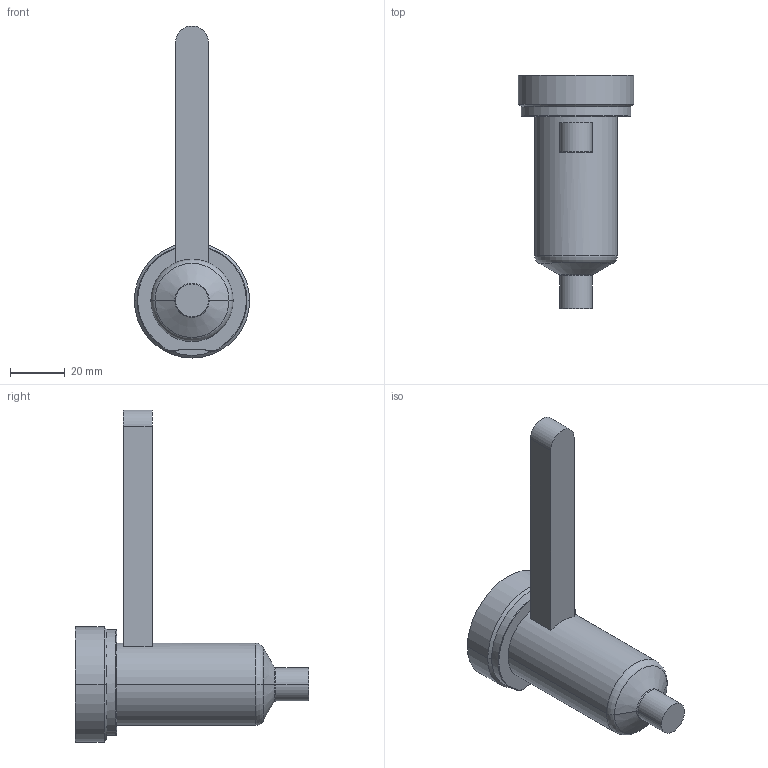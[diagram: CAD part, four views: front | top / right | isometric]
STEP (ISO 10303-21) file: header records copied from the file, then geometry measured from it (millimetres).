
FILE_DESCRIPTION((''),'2;1');
FILE_NAME('EO08_VG-FBE_STD_060_COT','2024-02-19T13:53:37',('sundharh'),(''),'CREO PARAMETRIC BY PTC INC, 2023154','CREO PARAMETRIC BY PTC INC, 2023154','');
FILE_SCHEMA(('CONFIG_CONTROL_DESIGN'));
Length unit declared in the file: millimetre
Products named in the file (1): EO08_VG-FBE_STD_060_COT
Bounding box: 42 x 85 x 121 mm (x, y, z)
Volume: 71175.8 mm3; surface area: 13882.4 mm2
Topology: 1 solids, 1 shells, 31 faces, 67 edges, 40 vertices
Faces by surface type: cylinder 11, plane 9, torus 7, cone 4
Entity records: 951 total; most frequent: CARTESIAN_POINT 218, DIRECTION 159, ORIENTED_EDGE 134, AXIS2_PLACEMENT_3D 67, EDGE_CURVE 67, VERTEX_POINT 40, CIRCLE 36, EDGE_LOOP 33
